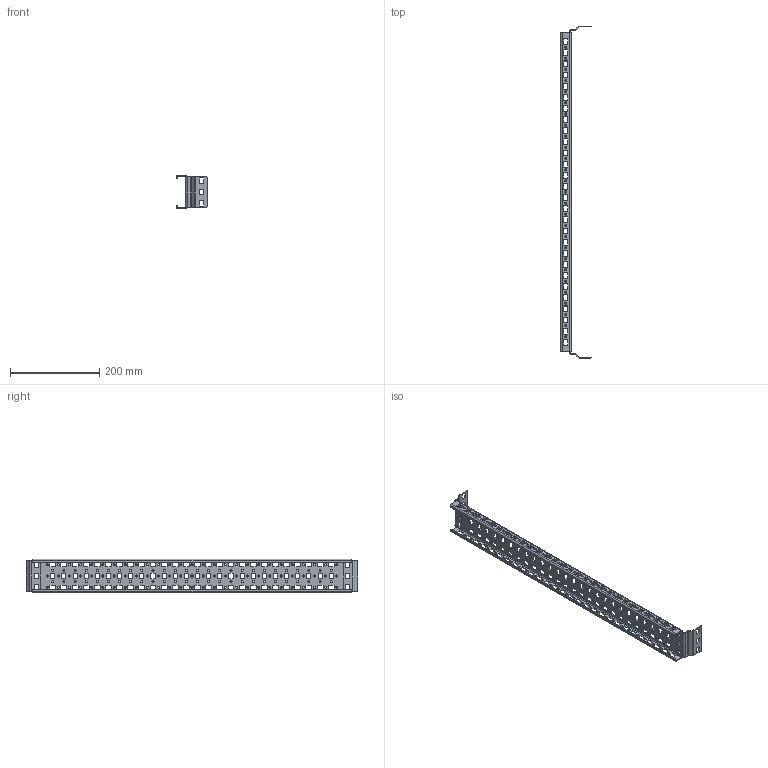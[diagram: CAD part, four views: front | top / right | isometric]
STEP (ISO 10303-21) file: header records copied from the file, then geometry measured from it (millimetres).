
FILE_DESCRIPTION (( 'STEP AP203' ), '1' );
FILE_NAME ('p2gv3r8.STEP', '2016-04-15T16:22:49', ( '' ), ( '' ), 'SwSTEP 2.0', 'SolidWorks 2014', '' );
FILE_SCHEMA (( 'CONFIG_CONTROL_DESIGN' ));
Length unit declared in the file: millimetre
Products named in the file (3): 89131055; 89121484; p2gv3r8
Assembly tree (3 placements, depth 2):
  p2gv3r8
    89131055
    89121484  x2
Bounding box: 69.14 x 745.21 x 75 mm (x, y, z)
Volume: 142856.3 mm3; surface area: 177765 mm2
Topology: 3 solids, 3 shells, 1092 faces, 3178 edges, 2092 vertices
Faces by surface type: plane 686, cylinder 406
Entity records: 35991 total; most frequent: CARTESIAN_POINT 6078, ORIENTED_EDGE 6068, DIRECTION 5906, EDGE_CURVE 3034, VECTOR 2242, LINE 2242, VERTEX_POINT 2004, AXIS2_PLACEMENT_3D 1832
